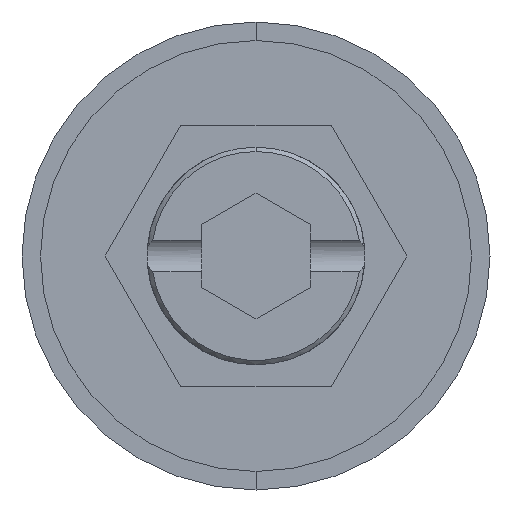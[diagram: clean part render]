
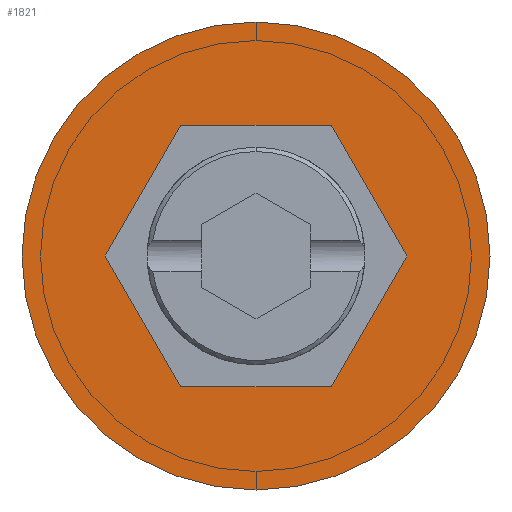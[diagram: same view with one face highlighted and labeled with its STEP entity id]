
A CAD part, front view. The second image highlights one B-rep face of the part: STEP entity #1821.
In plain terms, the highlighted planar face has unit normal (0, -1, 0).
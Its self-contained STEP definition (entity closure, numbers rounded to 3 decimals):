
#128 = VECTOR ( 'NONE', #4996, 1000. ) ;
#195 = LINE ( 'NONE', #2771, #1079 ) ;
#284 = DIRECTION ( 'NONE',  ( 0.5, 0., 0.866 ) ) ;
#300 = VECTOR ( 'NONE', #3161, 1000. ) ;
#329 = AXIS2_PLACEMENT_3D ( 'NONE', #3426, #3414, #3381 ) ;
#442 = EDGE_CURVE ( 'NONE', #4191, #4212, #3385, .T. ) ;
#468 = VECTOR ( 'NONE', #2791, 1000. ) ;
#685 = CARTESIAN_POINT ( 'NONE',  ( 3.464, 0., -6. ) ) ;
#974 = EDGE_LOOP ( 'NONE', ( #1945, #1233, #2003, #2686, #3759, #2597 ) ) ;
#975 = CARTESIAN_POINT ( 'NONE',  ( -3.464, 0., -6. ) ) ;
#1023 = DIRECTION ( 'NONE',  ( 0., -1., 0. ) ) ;
#1079 = VECTOR ( 'NONE', #2708, 1000. ) ;
#1128 = CIRCLE ( 'NONE', #2401, 10.75 ) ;
#1148 = AXIS2_PLACEMENT_3D ( 'NONE', #3331, #1023, #3730 ) ;
#1155 = CARTESIAN_POINT ( 'NONE',  ( 0., 0., 0. ) ) ;
#1202 = CARTESIAN_POINT ( 'NONE',  ( 0., 0., -10.75 ) ) ;
#1233 = ORIENTED_EDGE ( 'NONE', *, *, #2626, .F. ) ;
#1431 = CARTESIAN_POINT ( 'NONE',  ( 3.464, 0., -6. ) ) ;
#1470 = EDGE_CURVE ( 'NONE', #4773, #2446, #2538, .T. ) ;
#1480 = VERTEX_POINT ( 'NONE', #4839 ) ;
#1549 = DIRECTION ( 'NONE',  ( 0., 0., -1. ) ) ;
#1684 = ORIENTED_EDGE ( 'NONE', *, *, #2692, .T. ) ;
#1697 = EDGE_CURVE ( 'NONE', #4014, #4191, #3986, .T. ) ;
#1721 = CARTESIAN_POINT ( 'NONE',  ( -3.464, 0., 6. ) ) ;
#1736 = CARTESIAN_POINT ( 'NONE',  ( -6.928, 0., 0. ) ) ;
#1752 = VECTOR ( 'NONE', #284, 1000. ) ;
#1801 = CARTESIAN_POINT ( 'NONE',  ( 6.928, 0., 0. ) ) ;
#1821 = ADVANCED_FACE ( 'NONE', ( #3744, #1921 ), #3696, .T. ) ;
#1921 = FACE_OUTER_BOUND ( 'NONE', #4971, .T. ) ;
#1945 = ORIENTED_EDGE ( 'NONE', *, *, #1470, .F. ) ;
#2003 = ORIENTED_EDGE ( 'NONE', *, *, #442, .F. ) ;
#2172 = VECTOR ( 'NONE', #3451, 1000. ) ;
#2274 = CIRCLE ( 'NONE', #1148, 10.75 ) ;
#2360 = EDGE_CURVE ( 'NONE', #2446, #4932, #2752, .T. ) ;
#2401 = AXIS2_PLACEMENT_3D ( 'NONE', #1155, #3852, #1549 ) ;
#2446 = VERTEX_POINT ( 'NONE', #685 ) ;
#2538 = LINE ( 'NONE', #975, #468 ) ;
#2597 = ORIENTED_EDGE ( 'NONE', *, *, #2360, .F. ) ;
#2626 = EDGE_CURVE ( 'NONE', #4212, #4773, #3188, .T. ) ;
#2686 = ORIENTED_EDGE ( 'NONE', *, *, #1697, .F. ) ;
#2692 = EDGE_CURVE ( 'NONE', #1480, #4631, #1128, .T. ) ;
#2708 = DIRECTION ( 'NONE',  ( -0.5, 0., 0.866 ) ) ;
#2752 = LINE ( 'NONE', #1431, #1752 ) ;
#2771 = CARTESIAN_POINT ( 'NONE',  ( 6.928, 0., 0. ) ) ;
#2791 = DIRECTION ( 'NONE',  ( 1., 0., 0. ) ) ;
#2799 = CARTESIAN_POINT ( 'NONE',  ( 3.464, 0., 6. ) ) ;
#3161 = DIRECTION ( 'NONE',  ( -0.5, 0., -0.866 ) ) ;
#3188 = LINE ( 'NONE', #4989, #2172 ) ;
#3331 = CARTESIAN_POINT ( 'NONE',  ( 0., 0., 0. ) ) ;
#3381 = DIRECTION ( 'NONE',  ( 0., 0., -1. ) ) ;
#3385 = LINE ( 'NONE', #4185, #300 ) ;
#3414 = DIRECTION ( 'NONE',  ( 0., -1., 0. ) ) ;
#3426 = CARTESIAN_POINT ( 'NONE',  ( 0., 0., 0. ) ) ;
#3451 = DIRECTION ( 'NONE',  ( 0.5, 0., -0.866 ) ) ;
#3696 = PLANE ( 'NONE',  #329 ) ;
#3730 = DIRECTION ( 'NONE',  ( 0., 0., -1. ) ) ;
#3744 = FACE_BOUND ( 'NONE', #974, .T. ) ;
#3759 = ORIENTED_EDGE ( 'NONE', *, *, #4538, .F. ) ;
#3852 = DIRECTION ( 'NONE',  ( 0., -1., 0. ) ) ;
#3986 = LINE ( 'NONE', #5013, #128 ) ;
#4014 = VERTEX_POINT ( 'NONE', #2799 ) ;
#4065 = ORIENTED_EDGE ( 'NONE', *, *, #4897, .T. ) ;
#4185 = CARTESIAN_POINT ( 'NONE',  ( -3.464, 0., 6. ) ) ;
#4191 = VERTEX_POINT ( 'NONE', #1721 ) ;
#4212 = VERTEX_POINT ( 'NONE', #1736 ) ;
#4330 = CARTESIAN_POINT ( 'NONE',  ( -3.464, 0., -6. ) ) ;
#4538 = EDGE_CURVE ( 'NONE', #4932, #4014, #195, .T. ) ;
#4631 = VERTEX_POINT ( 'NONE', #1202 ) ;
#4773 = VERTEX_POINT ( 'NONE', #4330 ) ;
#4839 = CARTESIAN_POINT ( 'NONE',  ( 0., 0., 10.75 ) ) ;
#4897 = EDGE_CURVE ( 'NONE', #4631, #1480, #2274, .T. ) ;
#4932 = VERTEX_POINT ( 'NONE', #1801 ) ;
#4971 = EDGE_LOOP ( 'NONE', ( #4065, #1684 ) ) ;
#4989 = CARTESIAN_POINT ( 'NONE',  ( -6.928, 0., 0. ) ) ;
#4996 = DIRECTION ( 'NONE',  ( -1., 0., 0. ) ) ;
#5013 = CARTESIAN_POINT ( 'NONE',  ( 3.464, 0., 6. ) ) ;
